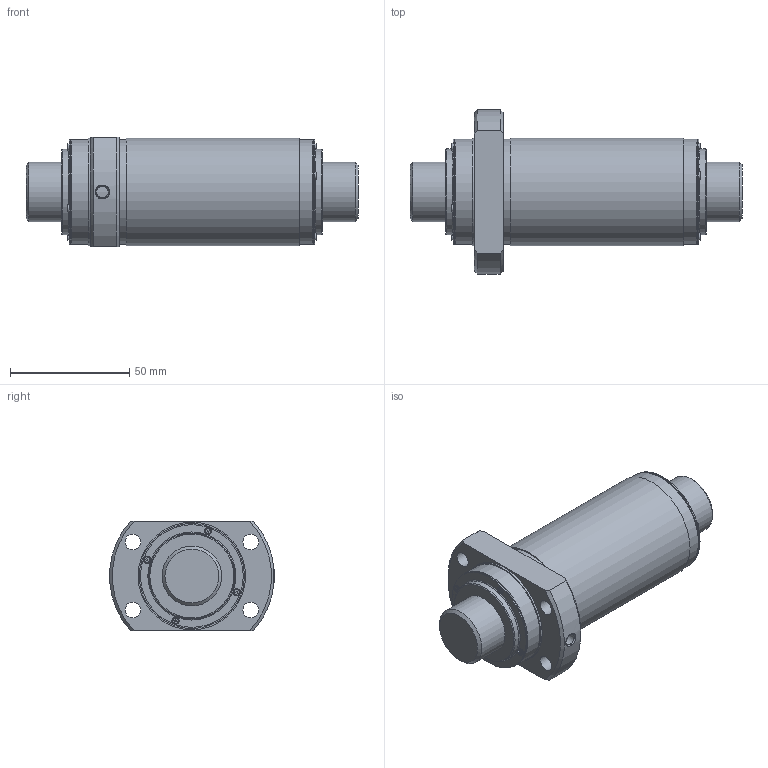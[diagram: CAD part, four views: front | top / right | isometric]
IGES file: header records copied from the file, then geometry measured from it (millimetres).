
Start section: Data from Parasolid IGES Translator 26.0.171, Copyright(c) 2006 Siemens PLM Software. All Rights Reserved.
Global section: file name: WTF2550-3ZZ+139LC7T_000_rev.igs; native system: By Siemens PLM Incorporated; preprocessor: XPlus GENERIC/IGES 26.0.171; author: Noname; organization: Noname; date: 20250611.064030; units: millimetre
Bounding box: 139 x 68.89 x 46 mm (x, y, z)
Surface area: 42323.4 mm2 (no closed solid volume)
Topology: 0 solids, 0 shells, 214 faces, 1086 edges, 1013 vertices
Faces by surface type: extrusion 127, revolution 87
